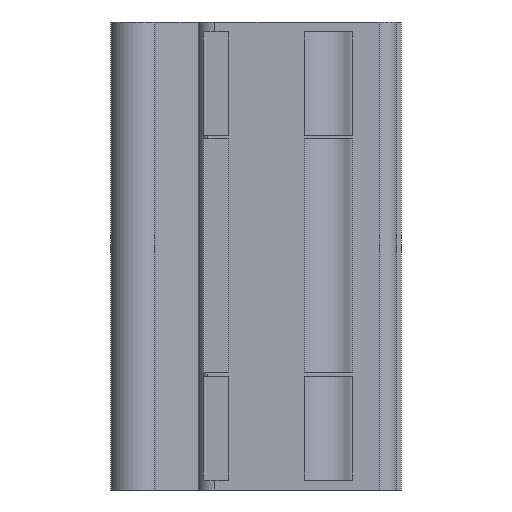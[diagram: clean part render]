
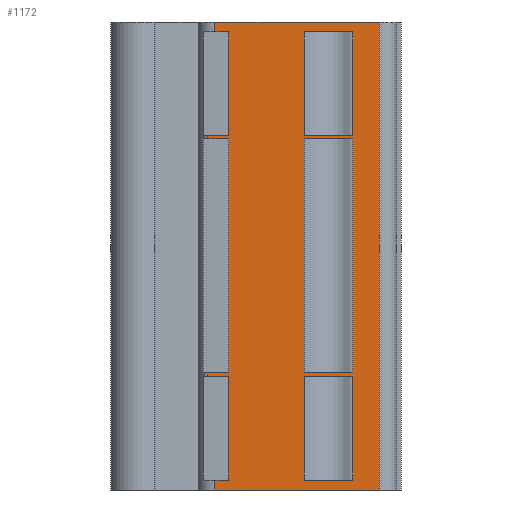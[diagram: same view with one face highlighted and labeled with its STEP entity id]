
A CAD part, left-side view. The second image highlights one B-rep face of the part: STEP entity #1172.
In plain terms, the highlighted planar face has unit normal (-1, 0, 0).
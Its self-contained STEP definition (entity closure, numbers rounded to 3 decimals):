
#15=FACE_BOUND('',#136,.T.);
#16=FACE_BOUND('',#137,.T.);
#17=FACE_BOUND('',#138,.T.);
#26=PLANE('',#1239);
#74=FACE_OUTER_BOUND('',#135,.T.);
#135=EDGE_LOOP('',(#854,#855,#856,#857,#858,#859,#860,#861,#862,#863,#864,
#865,#866,#867,#868,#869));
#136=EDGE_LOOP('',(#870,#871,#872,#873));
#137=EDGE_LOOP('',(#874,#875,#876,#877));
#138=EDGE_LOOP('',(#878,#879,#880,#881));
#192=LINE('',#1659,#335);
#196=LINE('',#1668,#339);
#201=LINE('',#1681,#344);
#206=LINE('',#1693,#349);
#224=LINE('',#1726,#367);
#228=LINE('',#1733,#371);
#229=LINE('',#1735,#372);
#230=LINE('',#1737,#373);
#231=LINE('',#1739,#374);
#232=LINE('',#1741,#375);
#233=LINE('',#1743,#376);
#234=LINE('',#1745,#377);
#235=LINE('',#1747,#378);
#236=LINE('',#1749,#379);
#237=LINE('',#1751,#380);
#238=LINE('',#1752,#381);
#239=LINE('',#1755,#382);
#240=LINE('',#1757,#383);
#241=LINE('',#1759,#384);
#242=LINE('',#1760,#385);
#243=LINE('',#1763,#386);
#244=LINE('',#1765,#387);
#245=LINE('',#1767,#388);
#246=LINE('',#1768,#389);
#247=LINE('',#1771,#390);
#248=LINE('',#1773,#391);
#249=LINE('',#1775,#392);
#250=LINE('',#1776,#393);
#335=VECTOR('',#1328,1.);
#339=VECTOR('',#1336,6.3);
#344=VECTOR('',#1345,1.);
#349=VECTOR('',#1356,6.3);
#367=VECTOR('',#1378,6.3);
#371=VECTOR('',#1384,6.3);
#372=VECTOR('',#1387,70.5);
#373=VECTOR('',#1388,31.25);
#374=VECTOR('',#1389,4.2);
#375=VECTOR('',#1390,3.);
#376=VECTOR('',#1391,49.6);
#377=VECTOR('',#1392,141.);
#378=VECTOR('',#1393,49.6);
#379=VECTOR('',#1394,3.);
#380=VECTOR('',#1395,4.2);
#381=VECTOR('',#1396,31.25);
#382=VECTOR('',#1397,70.5);
#383=VECTOR('',#1398,14.733);
#384=VECTOR('',#1399,70.5);
#385=VECTOR('',#1400,14.733);
#386=VECTOR('',#1401,31.25);
#387=VECTOR('',#1402,14.733);
#388=VECTOR('',#1403,31.25);
#389=VECTOR('',#1404,14.733);
#390=VECTOR('',#1405,14.733);
#391=VECTOR('',#1406,31.25);
#392=VECTOR('',#1407,14.733);
#393=VECTOR('',#1408,31.25);
#509=VERTEX_POINT('',#1652);
#512=VERTEX_POINT('',#1657);
#515=VERTEX_POINT('',#1667);
#520=VERTEX_POINT('',#1678);
#521=VERTEX_POINT('',#1680);
#525=VERTEX_POINT('',#1692);
#538=VERTEX_POINT('',#1724);
#540=VERTEX_POINT('',#1731);
#541=VERTEX_POINT('',#1736);
#542=VERTEX_POINT('',#1738);
#543=VERTEX_POINT('',#1740);
#544=VERTEX_POINT('',#1742);
#545=VERTEX_POINT('',#1744);
#546=VERTEX_POINT('',#1746);
#547=VERTEX_POINT('',#1748);
#548=VERTEX_POINT('',#1750);
#549=VERTEX_POINT('',#1753);
#550=VERTEX_POINT('',#1754);
#551=VERTEX_POINT('',#1756);
#552=VERTEX_POINT('',#1758);
#553=VERTEX_POINT('',#1761);
#554=VERTEX_POINT('',#1762);
#555=VERTEX_POINT('',#1764);
#556=VERTEX_POINT('',#1766);
#557=VERTEX_POINT('',#1769);
#558=VERTEX_POINT('',#1770);
#559=VERTEX_POINT('',#1772);
#560=VERTEX_POINT('',#1774);
#626=EDGE_CURVE('',#512,#509,#192,.T.);
#630=EDGE_CURVE('',#509,#515,#196,.T.);
#636=EDGE_CURVE('',#520,#521,#201,.T.);
#642=EDGE_CURVE('',#521,#525,#206,.T.);
#660=EDGE_CURVE('',#538,#520,#224,.T.);
#664=EDGE_CURVE('',#540,#512,#228,.T.);
#665=EDGE_CURVE('',#540,#525,#229,.T.);
#666=EDGE_CURVE('',#538,#541,#230,.T.);
#667=EDGE_CURVE('',#541,#542,#231,.T.);
#668=EDGE_CURVE('',#542,#543,#232,.T.);
#669=EDGE_CURVE('',#544,#543,#233,.T.);
#670=EDGE_CURVE('',#545,#544,#234,.T.);
#671=EDGE_CURVE('',#546,#545,#235,.T.);
#672=EDGE_CURVE('',#546,#547,#236,.T.);
#673=EDGE_CURVE('',#547,#548,#237,.T.);
#674=EDGE_CURVE('',#548,#515,#238,.T.);
#675=EDGE_CURVE('',#549,#550,#239,.T.);
#676=EDGE_CURVE('',#549,#551,#240,.T.);
#677=EDGE_CURVE('',#551,#552,#241,.T.);
#678=EDGE_CURVE('',#552,#550,#242,.T.);
#679=EDGE_CURVE('',#553,#554,#243,.T.);
#680=EDGE_CURVE('',#553,#555,#244,.T.);
#681=EDGE_CURVE('',#555,#556,#245,.T.);
#682=EDGE_CURVE('',#556,#554,#246,.T.);
#683=EDGE_CURVE('',#557,#558,#247,.T.);
#684=EDGE_CURVE('',#558,#559,#248,.T.);
#685=EDGE_CURVE('',#559,#560,#249,.T.);
#686=EDGE_CURVE('',#557,#560,#250,.T.);
#854=ORIENTED_EDGE('',*,*,#626,.F.);
#855=ORIENTED_EDGE('',*,*,#664,.F.);
#856=ORIENTED_EDGE('',*,*,#665,.T.);
#857=ORIENTED_EDGE('',*,*,#642,.F.);
#858=ORIENTED_EDGE('',*,*,#636,.F.);
#859=ORIENTED_EDGE('',*,*,#660,.F.);
#860=ORIENTED_EDGE('',*,*,#666,.T.);
#861=ORIENTED_EDGE('',*,*,#667,.T.);
#862=ORIENTED_EDGE('',*,*,#668,.T.);
#863=ORIENTED_EDGE('',*,*,#669,.F.);
#864=ORIENTED_EDGE('',*,*,#670,.F.);
#865=ORIENTED_EDGE('',*,*,#671,.F.);
#866=ORIENTED_EDGE('',*,*,#672,.T.);
#867=ORIENTED_EDGE('',*,*,#673,.T.);
#868=ORIENTED_EDGE('',*,*,#674,.T.);
#869=ORIENTED_EDGE('',*,*,#630,.F.);
#870=ORIENTED_EDGE('',*,*,#675,.F.);
#871=ORIENTED_EDGE('',*,*,#676,.T.);
#872=ORIENTED_EDGE('',*,*,#677,.T.);
#873=ORIENTED_EDGE('',*,*,#678,.T.);
#874=ORIENTED_EDGE('',*,*,#679,.F.);
#875=ORIENTED_EDGE('',*,*,#680,.T.);
#876=ORIENTED_EDGE('',*,*,#681,.T.);
#877=ORIENTED_EDGE('',*,*,#682,.T.);
#878=ORIENTED_EDGE('',*,*,#683,.T.);
#879=ORIENTED_EDGE('',*,*,#684,.T.);
#880=ORIENTED_EDGE('',*,*,#685,.T.);
#881=ORIENTED_EDGE('',*,*,#686,.F.);
#1172=ADVANCED_FACE('',(#74,#15,#16,#17),#26,.T.);
#1239=AXIS2_PLACEMENT_3D('',#1734,#1385,#1386);
#1328=DIRECTION('',(0.,0.,1.));
#1336=DIRECTION('',(0.,-1.,0.));
#1345=DIRECTION('',(0.,0.,1.));
#1356=DIRECTION('',(0.,-1.,0.));
#1378=DIRECTION('',(0.,1.,0.));
#1384=DIRECTION('',(0.,1.,0.));
#1385=DIRECTION('center_axis',(-1.,0.,0.));
#1386=DIRECTION('ref_axis',(0.,0.,1.));
#1387=DIRECTION('',(0.,0.,-1.));
#1388=DIRECTION('',(0.,0.,-1.));
#1389=DIRECTION('',(0.,1.,0.));
#1390=DIRECTION('',(0.,0.,-1.));
#1391=DIRECTION('',(0.,1.,0.));
#1392=DIRECTION('',(0.,0.,-1.));
#1393=DIRECTION('',(0.,-1.,0.));
#1394=DIRECTION('',(0.,0.,-1.));
#1395=DIRECTION('',(0.,-1.,0.));
#1396=DIRECTION('',(0.,0.,-1.));
#1397=DIRECTION('',(0.,0.,-1.));
#1398=DIRECTION('',(0.,-1.,0.));
#1399=DIRECTION('',(0.,0.,-1.));
#1400=DIRECTION('',(0.,1.,0.));
#1401=DIRECTION('',(0.,0.,-1.));
#1402=DIRECTION('',(0.,-1.,0.));
#1403=DIRECTION('',(0.,0.,-1.));
#1404=DIRECTION('',(0.,1.,0.));
#1405=DIRECTION('',(0.,-1.,0.));
#1406=DIRECTION('',(0.,0.,-1.));
#1407=DIRECTION('',(0.,1.,0.));
#1408=DIRECTION('',(0.,0.,-1.));
#1652=CARTESIAN_POINT('',(-7.4,54.2,36.25));
#1657=CARTESIAN_POINT('',(-7.4,54.2,35.25));
#1659=CARTESIAN_POINT('',(-7.4,54.2,35.5));
#1667=CARTESIAN_POINT('',(-7.4,47.9,36.25));
#1668=CARTESIAN_POINT('',(-7.4,55.6,36.25));
#1678=CARTESIAN_POINT('',(-7.4,54.2,-36.25));
#1680=CARTESIAN_POINT('',(-7.4,54.2,-35.25));
#1681=CARTESIAN_POINT('',(-7.4,54.2,-0.25));
#1692=CARTESIAN_POINT('',(-7.4,47.9,-35.25));
#1693=CARTESIAN_POINT('',(-7.4,55.6,-35.25));
#1724=CARTESIAN_POINT('',(-7.4,47.9,-36.25));
#1726=CARTESIAN_POINT('',(-7.4,47.9,-36.25));
#1731=CARTESIAN_POINT('',(-7.4,47.9,35.25));
#1733=CARTESIAN_POINT('',(-7.4,47.9,35.25));
#1734=CARTESIAN_POINT('Origin',(-7.4,51.75,35.75));
#1735=CARTESIAN_POINT('',(-7.4,47.9,0.));
#1736=CARTESIAN_POINT('',(-7.4,47.9,-67.5));
#1737=CARTESIAN_POINT('',(-7.4,47.9,0.));
#1738=CARTESIAN_POINT('',(-7.4,52.1,-67.5));
#1739=CARTESIAN_POINT('',(-7.4,51.925,-67.5));
#1740=CARTESIAN_POINT('',(-7.4,52.1,-70.5));
#1741=CARTESIAN_POINT('',(-7.4,52.1,0.));
#1742=CARTESIAN_POINT('',(-7.4,2.5,-70.5));
#1743=CARTESIAN_POINT('',(-7.4,2.5,-70.5));
#1744=CARTESIAN_POINT('',(-7.4,2.5,70.5));
#1745=CARTESIAN_POINT('',(-7.4,2.5,0.));
#1746=CARTESIAN_POINT('',(-7.4,52.1,70.5));
#1747=CARTESIAN_POINT('',(-7.4,2.5,70.5));
#1748=CARTESIAN_POINT('',(-7.4,52.1,67.5));
#1749=CARTESIAN_POINT('',(-7.4,52.1,0.));
#1750=CARTESIAN_POINT('',(-7.4,47.9,67.5));
#1751=CARTESIAN_POINT('',(-7.4,51.925,67.5));
#1752=CARTESIAN_POINT('',(-7.4,47.9,0.));
#1753=CARTESIAN_POINT('',(-7.4,25.233,35.25));
#1754=CARTESIAN_POINT('',(-7.4,25.233,-35.25));
#1755=CARTESIAN_POINT('',(-7.4,25.233,0.));
#1756=CARTESIAN_POINT('',(-7.4,10.5,35.25));
#1757=CARTESIAN_POINT('',(-7.4,127.3,35.25));
#1758=CARTESIAN_POINT('',(-7.4,10.5,-35.25));
#1759=CARTESIAN_POINT('',(-7.4,10.5,0.));
#1760=CARTESIAN_POINT('',(-7.4,-47.9,-35.25));
#1761=CARTESIAN_POINT('',(-7.4,25.233,67.5));
#1762=CARTESIAN_POINT('',(-7.4,25.233,36.25));
#1763=CARTESIAN_POINT('',(-7.4,25.233,0.));
#1764=CARTESIAN_POINT('',(-7.4,10.5,67.5));
#1765=CARTESIAN_POINT('',(-7.4,33.349,67.5));
#1766=CARTESIAN_POINT('',(-7.4,10.5,36.25));
#1767=CARTESIAN_POINT('',(-7.4,10.5,0.));
#1768=CARTESIAN_POINT('',(-7.4,-47.9,36.25));
#1769=CARTESIAN_POINT('',(-7.4,25.233,-36.25));
#1770=CARTESIAN_POINT('',(-7.4,10.5,-36.25));
#1771=CARTESIAN_POINT('',(-7.4,127.3,-36.25));
#1772=CARTESIAN_POINT('',(-7.4,10.5,-67.5));
#1773=CARTESIAN_POINT('',(-7.4,10.5,0.));
#1774=CARTESIAN_POINT('',(-7.4,25.233,-67.5));
#1775=CARTESIAN_POINT('',(-7.4,33.349,-67.5));
#1776=CARTESIAN_POINT('',(-7.4,25.233,0.));
